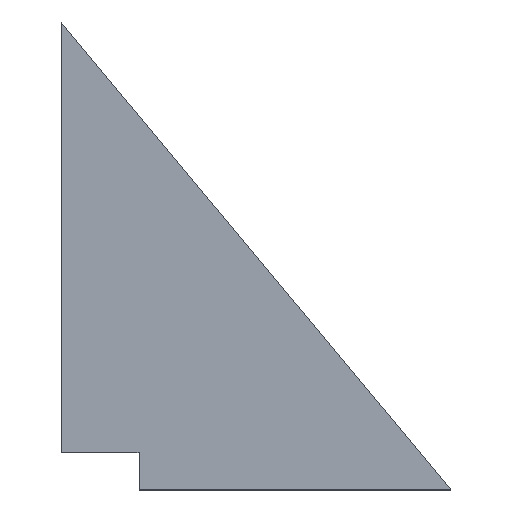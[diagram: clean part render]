
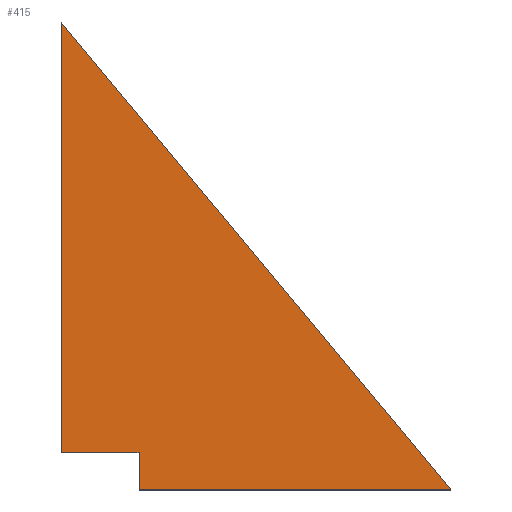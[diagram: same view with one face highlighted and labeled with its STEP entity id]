
A CAD part, top view. The second image highlights one B-rep face of the part: STEP entity #415.
In plain terms, the highlighted planar face has unit normal (0, 0, 1).
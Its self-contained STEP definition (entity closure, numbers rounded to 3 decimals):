
#24 = VERTEX_POINT('',#25);
#25 = CARTESIAN_POINT('',(0.,12.,12.));
#32 = PLANE('',#33);
#33 = AXIS2_PLACEMENT_3D('',#34,#35,#36);
#34 = CARTESIAN_POINT('',(0.,12.,0.));
#35 = DIRECTION('',(0.,1.,0.));
#36 = DIRECTION('',(1.,0.,0.));
#44 = PLANE('',#45);
#45 = AXIS2_PLACEMENT_3D('',#46,#47,#48);
#46 = CARTESIAN_POINT('',(0.,150.,0.));
#47 = DIRECTION('',(1.,0.,-0.));
#48 = DIRECTION('',(0.,-1.,0.));
#56 = EDGE_CURVE('',#24,#57,#59,.T.);
#57 = VERTEX_POINT('',#58);
#58 = CARTESIAN_POINT('',(25.,12.,12.));
#59 = SURFACE_CURVE('',#60,(#64,#71),.PCURVE_S1.);
#60 = LINE('',#61,#62);
#61 = CARTESIAN_POINT('',(0.,12.,12.));
#62 = VECTOR('',#63,1.);
#63 = DIRECTION('',(1.,0.,0.));
#64 = PCURVE('',#32,#65);
#65 = DEFINITIONAL_REPRESENTATION('',(#66),#70);
#66 = LINE('',#67,#68);
#67 = CARTESIAN_POINT('',(0.,-12.));
#68 = VECTOR('',#69,1.);
#69 = DIRECTION('',(1.,0.));
#70 = ( GEOMETRIC_REPRESENTATION_CONTEXT(2) 
PARAMETRIC_REPRESENTATION_CONTEXT() REPRESENTATION_CONTEXT('2D SPACE',''
  ) );
#71 = PCURVE('',#72,#77);
#72 = PLANE('',#73);
#73 = AXIS2_PLACEMENT_3D('',#74,#75,#76);
#74 = CARTESIAN_POINT('',(43.202,55.702,12.));
#75 = DIRECTION('',(0.,0.,1.));
#76 = DIRECTION('',(1.,0.,-0.));
#77 = DEFINITIONAL_REPRESENTATION('',(#78),#82);
#78 = LINE('',#79,#80);
#79 = CARTESIAN_POINT('',(-43.202,-43.702));
#80 = VECTOR('',#81,1.);
#81 = DIRECTION('',(1.,0.));
#82 = ( GEOMETRIC_REPRESENTATION_CONTEXT(2) 
PARAMETRIC_REPRESENTATION_CONTEXT() REPRESENTATION_CONTEXT('2D SPACE',''
  ) );
#100 = PLANE('',#101);
#101 = AXIS2_PLACEMENT_3D('',#102,#103,#104);
#102 = CARTESIAN_POINT('',(25.,12.,0.));
#103 = DIRECTION('',(1.,0.,-0.));
#104 = DIRECTION('',(0.,-1.,0.));
#142 = EDGE_CURVE('',#57,#143,#145,.T.);
#143 = VERTEX_POINT('',#144);
#144 = CARTESIAN_POINT('',(25.,0.,12.));
#145 = SURFACE_CURVE('',#146,(#150,#157),.PCURVE_S1.);
#146 = LINE('',#147,#148);
#147 = CARTESIAN_POINT('',(25.,12.,12.));
#148 = VECTOR('',#149,1.);
#149 = DIRECTION('',(0.,-1.,0.));
#150 = PCURVE('',#100,#151);
#151 = DEFINITIONAL_REPRESENTATION('',(#152),#156);
#152 = LINE('',#153,#154);
#153 = CARTESIAN_POINT('',(0.,-12.));
#154 = VECTOR('',#155,1.);
#155 = DIRECTION('',(1.,0.));
#156 = ( GEOMETRIC_REPRESENTATION_CONTEXT(2) 
PARAMETRIC_REPRESENTATION_CONTEXT() REPRESENTATION_CONTEXT('2D SPACE',''
  ) );
#157 = PCURVE('',#72,#158);
#158 = DEFINITIONAL_REPRESENTATION('',(#159),#163);
#159 = LINE('',#160,#161);
#160 = CARTESIAN_POINT('',(-18.202,-43.702));
#161 = VECTOR('',#162,1.);
#162 = DIRECTION('',(0.,-1.));
#163 = ( GEOMETRIC_REPRESENTATION_CONTEXT(2) 
PARAMETRIC_REPRESENTATION_CONTEXT() REPRESENTATION_CONTEXT('2D SPACE',''
  ) );
#181 = PLANE('',#182);
#182 = AXIS2_PLACEMENT_3D('',#183,#184,#185);
#183 = CARTESIAN_POINT('',(25.,0.,0.));
#184 = DIRECTION('',(0.,1.,0.));
#185 = DIRECTION('',(1.,0.,0.));
#218 = EDGE_CURVE('',#143,#219,#221,.T.);
#219 = VERTEX_POINT('',#220);
#220 = CARTESIAN_POINT('',(125.,0.,12.));
#221 = SURFACE_CURVE('',#222,(#226,#233),.PCURVE_S1.);
#222 = LINE('',#223,#224);
#223 = CARTESIAN_POINT('',(25.,0.,12.));
#224 = VECTOR('',#225,1.);
#225 = DIRECTION('',(1.,0.,0.));
#226 = PCURVE('',#181,#227);
#227 = DEFINITIONAL_REPRESENTATION('',(#228),#232);
#228 = LINE('',#229,#230);
#229 = CARTESIAN_POINT('',(0.,-12.));
#230 = VECTOR('',#231,1.);
#231 = DIRECTION('',(1.,0.));
#232 = ( GEOMETRIC_REPRESENTATION_CONTEXT(2) 
PARAMETRIC_REPRESENTATION_CONTEXT() REPRESENTATION_CONTEXT('2D SPACE',''
  ) );
#233 = PCURVE('',#72,#234);
#234 = DEFINITIONAL_REPRESENTATION('',(#235),#239);
#235 = LINE('',#236,#237);
#236 = CARTESIAN_POINT('',(-18.202,-55.702));
#237 = VECTOR('',#238,1.);
#238 = DIRECTION('',(1.,0.));
#239 = ( GEOMETRIC_REPRESENTATION_CONTEXT(2) 
PARAMETRIC_REPRESENTATION_CONTEXT() REPRESENTATION_CONTEXT('2D SPACE',''
  ) );
#257 = PLANE('',#258);
#258 = AXIS2_PLACEMENT_3D('',#259,#260,#261);
#259 = CARTESIAN_POINT('',(125.,0.,0.));
#260 = DIRECTION('',(-0.768,-0.64,0.));
#261 = DIRECTION('',(-0.64,0.768,0.));
#294 = EDGE_CURVE('',#219,#295,#297,.T.);
#295 = VERTEX_POINT('',#296);
#296 = CARTESIAN_POINT('',(0.,150.,12.));
#297 = SURFACE_CURVE('',#298,(#302,#309),.PCURVE_S1.);
#298 = LINE('',#299,#300);
#299 = CARTESIAN_POINT('',(125.,0.,12.));
#300 = VECTOR('',#301,1.);
#301 = DIRECTION('',(-0.64,0.768,0.));
#302 = PCURVE('',#257,#303);
#303 = DEFINITIONAL_REPRESENTATION('',(#304),#308);
#304 = LINE('',#305,#306);
#305 = CARTESIAN_POINT('',(0.,-12.));
#306 = VECTOR('',#307,1.);
#307 = DIRECTION('',(1.,0.));
#308 = ( GEOMETRIC_REPRESENTATION_CONTEXT(2) 
PARAMETRIC_REPRESENTATION_CONTEXT() REPRESENTATION_CONTEXT('2D SPACE',''
  ) );
#309 = PCURVE('',#72,#310);
#310 = DEFINITIONAL_REPRESENTATION('',(#311),#315);
#311 = LINE('',#312,#313);
#312 = CARTESIAN_POINT('',(81.798,-55.702));
#313 = VECTOR('',#314,1.);
#314 = DIRECTION('',(-0.64,0.768));
#315 = ( GEOMETRIC_REPRESENTATION_CONTEXT(2) 
PARAMETRIC_REPRESENTATION_CONTEXT() REPRESENTATION_CONTEXT('2D SPACE',''
  ) );
#365 = EDGE_CURVE('',#295,#24,#366,.T.);
#366 = SURFACE_CURVE('',#367,(#371,#378),.PCURVE_S1.);
#367 = LINE('',#368,#369);
#368 = CARTESIAN_POINT('',(0.,150.,12.));
#369 = VECTOR('',#370,1.);
#370 = DIRECTION('',(0.,-1.,0.));
#371 = PCURVE('',#44,#372);
#372 = DEFINITIONAL_REPRESENTATION('',(#373),#377);
#373 = LINE('',#374,#375);
#374 = CARTESIAN_POINT('',(0.,-12.));
#375 = VECTOR('',#376,1.);
#376 = DIRECTION('',(1.,0.));
#377 = ( GEOMETRIC_REPRESENTATION_CONTEXT(2) 
PARAMETRIC_REPRESENTATION_CONTEXT() REPRESENTATION_CONTEXT('2D SPACE',''
  ) );
#378 = PCURVE('',#72,#379);
#379 = DEFINITIONAL_REPRESENTATION('',(#380),#384);
#380 = LINE('',#381,#382);
#381 = CARTESIAN_POINT('',(-43.202,94.298));
#382 = VECTOR('',#383,1.);
#383 = DIRECTION('',(0.,-1.));
#384 = ( GEOMETRIC_REPRESENTATION_CONTEXT(2) 
PARAMETRIC_REPRESENTATION_CONTEXT() REPRESENTATION_CONTEXT('2D SPACE',''
  ) );
#415 = ADVANCED_FACE('',(#416),#72,.T.);
#416 = FACE_BOUND('',#417,.T.);
#417 = EDGE_LOOP('',(#418,#419,#420,#421,#422));
#418 = ORIENTED_EDGE('',*,*,#56,.T.);
#419 = ORIENTED_EDGE('',*,*,#142,.T.);
#420 = ORIENTED_EDGE('',*,*,#218,.T.);
#421 = ORIENTED_EDGE('',*,*,#294,.T.);
#422 = ORIENTED_EDGE('',*,*,#365,.T.);
